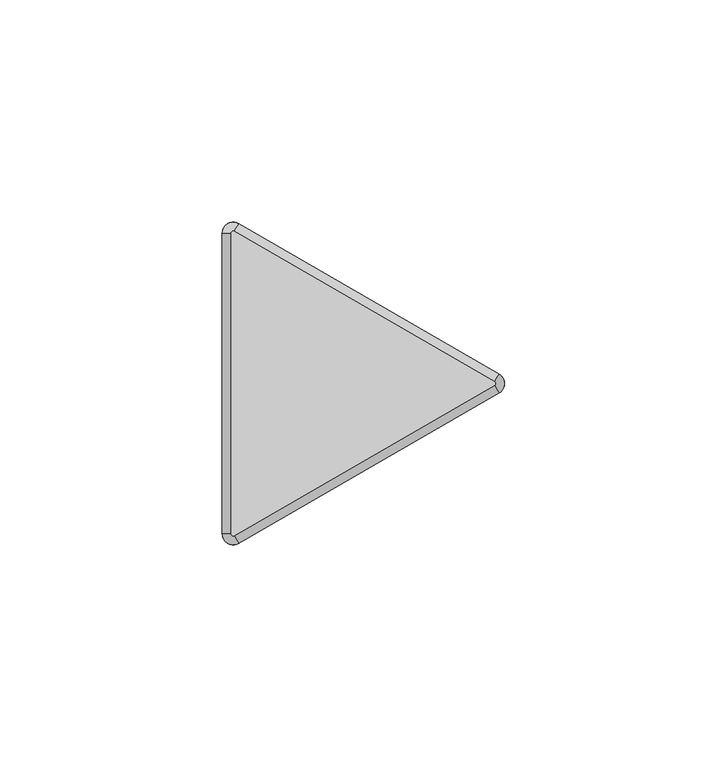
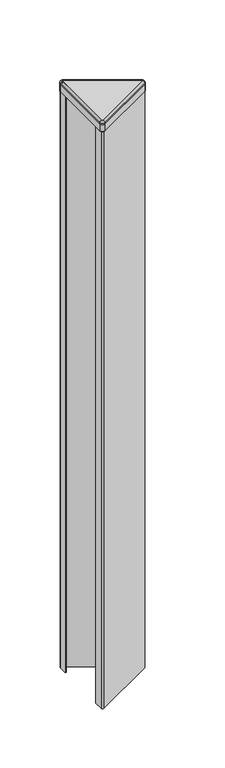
"""IFC4 building model written with IfcOpenShell, lengths in millimetres: furniture geometry, Steelcase - Answer Solution - Panel - 120deg Change-of-Height Trim - Thin : Y Corner - 24H for 90H App."""

from ifc_helpers import new_model, si_unit, point, frame, frame_2d, origin, place, context, project, spatial, polyline, circle_curve, ellipse_curve, trimmed, segment, composite_curve, outline, extrude, source, transform, mapped, element, save
from ifc_brep_helpers import plane_surface, cylinder_surface, revolved_surface, advanced_brep


def furniture_f71cb1ea(model_context):
    return source(origin(), model_context, "Body", "SolidModel", [
        advanced_brep(
        [(-10.518645, -37.3335529, 2290.4628978), (-14.2052101, -35.2051135, 2290.4628978), (-14.2052101, -35.2051135, 2289.5164663), (-10.518645, -37.3335529, 2289.5164663), (-11.46175, -35.7000471, 2292.35), (-12.319, -35.2051135, 2292.35), (-11.46175, -35.7000471, 2289.5164663), (-12.319, -35.2051135, 2289.5164663), (48.0429908, -3.5229767, 2289.5164663), (48.0429908, -3.5229767, 2290.4628978), (47.0998858, -1.8894709, 2292.35), (47.0998858, -1.8894709, 2289.5164663), (48.0429908, 0.733902, 2290.4628978), (48.0429908, 0.733902, 2289.5164663), (47.0998858, -0.8996038, 2292.35), (47.0998858, -0.8996038, 2289.5164663), (-10.518645, 34.5444782, 2289.5164663), (-14.2052101, 32.4160388, 2289.5164663), (-11.46175, 32.9109723, 2289.5164663), (-12.319, 32.4160388, 2289.5164663), (-10.518645, 34.5444782, 2290.4628978), (-11.46175, 32.9109723, 2292.35), (-14.2052101, 32.4160388, 2290.4628978), (-12.319, 32.4160388, 2292.35)],
        [
            (0, 1, circle_curve(frame((-11.7475, -35.2051135, 2290.4628978), z_axis=(0.0, 0.0, -1.0), x_axis=(-1.0, 0.0, 0.0)), 2.4577101)),
            (1, 2),
            (2, 3, circle_curve(frame((-11.7475, -35.2051135, 2289.5164663), z_axis=(0.0, 0.0, 1.0), x_axis=(-1.0, 0.0, 0.0)), 2.4577101)),
            (3, 0),
            (4, 5, circle_curve(frame((-11.7475, -35.2051135, 2292.35), z_axis=(0.0, 0.0, -1.0), x_axis=(-1.0, 0.0, 0.0)), 0.5715)),
            (5, 1, circle_curve(frame((-12.3181076, -35.2051135, 2290.4628978), z_axis=(0.0, -1.0, 0.0), x_axis=(1.0, 0.0, 0.0)), 1.8871024)),
            (0, 4, circle_curve(frame((-11.4621962, -35.6992743, 2290.4628978), z_axis=(-0.8660254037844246, -0.5000000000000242, 0.0), x_axis=(-0.5000000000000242, 0.8660254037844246, 0.0)), 1.8871024)),
            (6, 7, circle_curve(frame((-11.7475, -35.2051135, 2289.5164663), z_axis=(0.0, 0.0, -1.0), x_axis=(-1.0, 0.0, 0.0)), 0.5715)),
            (7, 5),
            (4, 6),
            (3, 8),
            (8, 9),
            (9, 0),
            (9, 10, circle_curve(frame((47.0994396, -1.8886981, 2290.4628978), z_axis=(-0.8660254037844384, -0.5000000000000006, 0.0), x_axis=(-0.5000000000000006, 0.8660254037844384, 0.0)), 1.8871024)),
            (10, 4),
            (10, 11),
            (11, 6),
            (12, 9, circle_curve(frame((46.8141358, -1.3945374, 2290.4628978), z_axis=(0.0, 0.0, -1.0), x_axis=(0.4999999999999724, -0.8660254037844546, 0.0)), 2.4577101)),
            (8, 13, circle_curve(frame((46.8141358, -1.3945374, 2289.5164663), z_axis=(0.0, 0.0, 1.0), x_axis=(0.4999999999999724, -0.8660254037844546, 0.0)), 2.4577101)),
            (13, 12),
            (14, 10, circle_curve(frame((46.8141358, -1.3945374, 2292.35), z_axis=(0.0, 0.0, -1.0), x_axis=(0.4999999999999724, -0.8660254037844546, 0.0)), 0.5715)),
            (12, 14, circle_curve(frame((47.0994396, -0.9003766, 2290.4628978), z_axis=(0.8660254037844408, -0.4999999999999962, 0.0), x_axis=(-0.4999999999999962, -0.8660254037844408, 0.0)), 1.8871024)),
            (15, 11, circle_curve(frame((46.8141358, -1.3945374, 2289.5164663), z_axis=(0.0, 0.0, -1.0), x_axis=(0.4999999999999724, -0.8660254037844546, 0.0)), 0.5715)),
            (14, 15),
            (16, 13),
            (2, 17),
            (17, 16, circle_curve(frame((-11.7475, 32.4160388, 2289.5164663), z_axis=(0.0, 0.0, -1.0), x_axis=(0.500000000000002, 0.8660254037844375, 0.0)), 2.4577101)),
            (15, 18),
            (18, 19, circle_curve(frame((-11.7475, 32.4160388, 2289.5164663), z_axis=(0.0, 0.0, 1.0), x_axis=(0.500000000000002, 0.8660254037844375, 0.0)), 0.5715)),
            (19, 7),
            (16, 20),
            (20, 12),
            (20, 21, circle_curve(frame((-11.4621962, 32.9101995, 2290.4628978), z_axis=(0.8660254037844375, -0.5000000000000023, 0.0), x_axis=(-0.5000000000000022, -0.8660254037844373, 0.0)), 1.8871024)),
            (21, 14),
            (21, 18),
            (22, 20, circle_curve(frame((-11.7475, 32.4160388, 2290.4628978), z_axis=(0.0, 0.0, -1.0), x_axis=(0.500000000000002, 0.8660254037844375, 0.0)), 2.4577101)),
            (17, 22),
            (23, 21, circle_curve(frame((-11.7475, 32.4160388, 2292.35), z_axis=(0.0, 0.0, -1.0), x_axis=(0.500000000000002, 0.8660254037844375, 0.0)), 0.5715)),
            (22, 23, circle_curve(frame((-12.3181076, 32.4160388, 2290.4628978), z_axis=(0.0, 1.0, 0.0), x_axis=(1.0, 0.0, 0.0)), 1.8871024)),
            (23, 19),
            (1, 22),
            (5, 23),
        ],
        [
            cylinder_surface(frame((-11.7475, -35.2051135, 0.0), z_axis=(0.0, 0.0, 1.0), x_axis=(-1.0, 0.0, 0.0)), 2.4577101),
            revolved_surface(trimmed(ellipse_curve(frame((-12.3181076, -35.2051135, 2290.4628978), z_axis=(0.0, 1.0, 0.0), x_axis=(1.0, 0.0, 0.0)), 1.8871024, 1.8871024), [point((-14.2052101, -35.2051135, 2290.4628978))], [point((-12.319, -35.2051135, 2292.35))], True, "CARTESIAN"), (-11.7475, -35.2051135, 0.0), (0.0, 0.0, 1.0)),
            revolved_surface(polyline([(-12.319, -35.2051135, 2292.35), (-12.319, -35.2051135, 2289.5164663)]), (-11.7475, -35.2051135, 0.0), (0.0, 0.0, 1.0)),
            plane_surface(frame((-10.518645, -37.3335529, 2289.5164663), z_axis=(0.5000000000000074, -0.8660254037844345, 0.0), x_axis=(0.8660254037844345, 0.5000000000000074, 0.0))),
            cylinder_surface(frame((-11.4621962, -35.6992743, 2290.4628978), z_axis=(-0.8660254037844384, -0.5000000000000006, 0.0), x_axis=(-0.5000000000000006, 0.8660254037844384, 0.0)), 1.8871024),
            plane_surface(frame((-11.46175, -35.7000471, 2292.35), z_axis=(-0.5000000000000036, 0.8660254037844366, 0.0), x_axis=(0.8660254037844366, 0.5000000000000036, 0.0))),
            cylinder_surface(frame((46.8141358, -1.3945374, 0.0), z_axis=(0.0, 0.0, 1.0), x_axis=(0.4999999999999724, -0.8660254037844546, 0.0)), 2.4577101),
            revolved_surface(trimmed(ellipse_curve(frame((47.0994396, -1.8886981, 2290.4628978), z_axis=(-0.8660254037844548, -0.499999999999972, 0.0), x_axis=(-0.499999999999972, 0.8660254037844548, 0.0)), 1.8871024, 1.8871024), [point((48.0429908, -3.5229767, 2290.4628978))], [point((47.0998858, -1.8894709, 2292.35))], True, "CARTESIAN"), (46.8141358, -1.3945374, 0.0), (0.0, 0.0, 1.0)),
            revolved_surface(polyline([(47.09988579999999, -1.8894709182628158, 2292.35), (47.09988579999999, -1.8894709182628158, 2289.5164663)]), (46.8141358, -1.3945374, 0.0), (0.0, 0.0, 1.0)),
            plane_surface(frame((47.0998858, -0.8996038, 2289.5164663), z_axis=(0.0, 0.0, -1.0000000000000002), x_axis=(-0.8660254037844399, 0.49999999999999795, 0.0))),
            plane_surface(frame((48.0429908, 0.733902, 2289.5164663), z_axis=(0.5000000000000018, 0.8660254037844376, 0.0), x_axis=(-0.8660254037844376, 0.5000000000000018, 0.0))),
            cylinder_surface(frame((47.0994396, -0.9003766, 2290.4628978), z_axis=(0.8660254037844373, -0.5000000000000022, 0.0), x_axis=(-0.5000000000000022, -0.8660254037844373, 0.0)), 1.8871024),
            plane_surface(frame((47.0998858, -0.8996038, 2292.35), z_axis=(-0.49999999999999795, -0.8660254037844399, 0.0), x_axis=(-0.8660254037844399, 0.49999999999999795, 0.0))),
            cylinder_surface(frame((-11.7475, 32.4160388, 0.0), z_axis=(0.0, 0.0, 1.0), x_axis=(0.500000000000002, 0.8660254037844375, 0.0)), 2.4577101),
            revolved_surface(trimmed(ellipse_curve(frame((-11.4621962, 32.9101995, 2290.4628978), z_axis=(0.866025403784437, -0.5000000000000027, 0.0), x_axis=(-0.5000000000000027, -0.866025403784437, 0.0)), 1.8871024, 1.8871024), [point((-10.518645, 34.5444782, 2290.4628978))], [point((-11.46175, 32.9109723, 2292.35))], True, "CARTESIAN"), (-11.7475, 32.4160388, 0.0), (0.0, 0.0, 1.0)),
            revolved_surface(polyline([(-11.461749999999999, 32.91097231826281, 2292.35), (-11.461749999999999, 32.91097231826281, 2289.5164663)]), (-11.7475, 32.4160388, 0.0), (0.0, 0.0, 1.0)),
            plane_surface(frame((-14.2052101, 32.4160388, 2289.5164663), z_axis=(-1.0, 0.0, 0.0), x_axis=(0.0, -1.0, 0.0))),
            cylinder_surface(frame((-12.3181076, 32.4160388, 2290.4628978), z_axis=(0.0, 1.0, 0.0), x_axis=(1.0, 0.0, 0.0)), 1.8871024),
            plane_surface(frame((-12.319, 32.4160388, 2292.35), z_axis=(1.0, 0.0, 0.0), x_axis=(0.0, -1.0, 0.0))),
        ],
        [
            (0, [[1, 2, 3, 4]]),
            (1, [[5, 6, -1, 7]]),
            (2, [[8, 9, -5, 10]]),
            (3, [[-4, 11, 12, 13]]),
            (4, [[-7, -13, 14, 15]]),
            (5, [[-10, -15, 16, 17]]),
            (6, [[18, -12, 19, 20]]),
            (7, [[21, -14, -18, 22]]),
            (8, [[23, -16, -21, 24]]),
            (9, [[25, -19, -11, -3, 26, 27], [-8, -17, -23, 28, 29, 30]]),
            (10, [[-20, -25, 31, 32]]),
            (11, [[-22, -32, 33, 34]]),
            (12, [[-24, -34, 35, -28]]),
            (13, [[36, -31, -27, 37]]),
            (14, [[38, -33, -36, 39]]),
            (15, [[-29, -35, -38, 40]]),
            (16, [[-37, -26, -2, 41]]),
            (17, [[-39, -41, -6, 42]]),
            (18, [[-40, -42, -9, -30]]),
        ],
    ),
        extrude(outline(composite_curve([segment(trimmed(circle_curve(frame_2d((47.9522001, -1.3945374)), 1.2978651), [point((48.6011327, -0.2705532))], [point((48.6011327, -2.5185215))], False, "CARTESIAN"), True, "CONTINUOUS"), segment(polyline([(48.6011327, -2.5185215), (-11.6879343, -37.3264306)]), True, "CONTINUOUS"), segment(trimmed(circle_curve(frame_2d((-12.3300896, -36.2141852)), 1.2843104), [point((-11.6879343, -37.3264306))], [point((-13.6144, -36.2141852))], False, "CARTESIAN"), True, "CONTINUOUS"), segment(polyline([(-13.6144, -36.2141852), (-13.6144, -27.3303775), (-12.7, -27.3303775), (-12.7, -36.8548888), (48.7191304, -1.3945374), (-12.7, 34.0658141), (-12.7, 24.5413027), (-13.6144, 24.5413027), (-13.6144, 33.4106259)]), True, "CONTINUOUS"), segment(trimmed(circle_curve(frame_2d((-12.3217269, 33.4106259)), 1.2926731), [point((-13.6144, 33.4106259))], [point((-11.6753904, 34.5301136))], False, "CARTESIAN"), True, "CONTINUOUS"), segment(polyline([(-11.6753904, 34.5301136), (48.6011327, -0.2705532)]), True, "CONTINUOUS")], self_intersect=False)), frame((0.0, 0.0, 1682.75), z_axis=(0.0, 0.0, 1.0), x_axis=(1.0, 0.0, 0.0)), (0.0, 0.0, 1.0), 599.44),
        extrude(outline(composite_curve([segment(trimmed(circle_curve(frame_2d((46.8261011, -1.3945374)), 0.5655173), [point((47.1088598, -0.904785))], [point((47.1088598, -1.8842897))], False, "CARTESIAN"), True, "CONTINUOUS"), segment(polyline([(47.1088598, -1.8842897), (-11.4505119, -35.6935587)]), True, "CONTINUOUS"), segment(trimmed(circle_curve(frame_2d((-11.7400079, -35.1921369)), 0.5789921), [point((-11.4505119, -35.6935587))], [point((-12.319, -35.1921369))], False, "CARTESIAN"), True, "CONTINUOUS"), segment(polyline([(-12.319, -35.1921369), (-12.319, 32.3985888)]), True, "CONTINUOUS"), segment(trimmed(circle_curve(frame_2d((-11.7374252, 32.3985888)), 0.5815748), [point((-12.319, 32.3985888))], [point((-11.4466378, 32.9022473))], False, "CARTESIAN"), True, "CONTINUOUS"), segment(polyline([(-11.4466378, 32.9022473), (47.1088598, -0.904785)]), True, "CONTINUOUS")], self_intersect=False)), frame((0.0, 0.0, 2289.5164663), z_axis=(0.0, 0.0, 1.0), x_axis=(1.0, 0.0, 0.0)), (0.0, 0.0, 1.0), 2.8335337),
        extrude(outline(composite_curve([segment(trimmed(circle_curve(frame_2d((46.8140443, -1.3945374)), 2.4577558), [point((48.0429222, 0.7339416))], [point((48.0429222, -3.5230163))], False, "CARTESIAN"), True, "CONTINUOUS"), segment(polyline([(48.0429222, -3.5230163), (-10.518058, -37.333214)]), True, "CONTINUOUS"), segment(trimmed(circle_curve(frame_2d((-11.7471087, -35.2044357)), 2.4581014), [point((-10.518058, -37.333214))], [point((-14.2052101, -35.2044357))], False, "CARTESIAN"), True, "CONTINUOUS"), segment(polyline([(-14.2052101, -35.2044357), (-14.2052101, 32.4160388)]), True, "CONTINUOUS"), segment(trimmed(circle_curve(frame_2d((-11.7475, 32.4160388)), 2.4577101), [point((-14.2052101, 32.4160388))], [point((-10.518645, 34.5444782))], False, "CARTESIAN"), True, "CONTINUOUS"), segment(polyline([(-10.518645, 34.5444782), (48.0429222, 0.7339416)]), True, "CONTINUOUS")], self_intersect=False)), frame((0.0, 0.0, 2282.19), z_axis=(0.0, 0.0, 1.0), x_axis=(1.0, 0.0, 0.0)), (0.0, 0.0, 1.0), 7.3264663),
    ])


if __name__ == "__main__":
    model = new_model("IFC4")
    model_context = context("Model", 3, world=origin())
    ifc_project = project(units=[si_unit("LENGTHUNIT", "METRE", prefix="MILLI")], contexts=[model_context])
    site = spatial("IfcSite", under=ifc_project)
    building = spatial("IfcBuilding", under=site)
    placement = place(None, origin())
    furniture_shape = furniture_f71cb1ea(model_context)
    element("IfcFurniture", 1, ObjectType="Steelcase - Answer Solution - Panel - 120deg Change-of-Height Trim - Thin : Y Corner - 24H for 90H App", at=placement, inside=building, context=model_context, shape_type="MappedRepresentation", body=[
        mapped(furniture_shape, transform((0.0, 0.0, 0.0), x_axis=(1.0, 0.0, 0.0), y_axis=(0.0, 1.0, 0.0), z_axis=(0.0, 0.0, 1.0))),
    ])
    save(model, "model.ifc")
